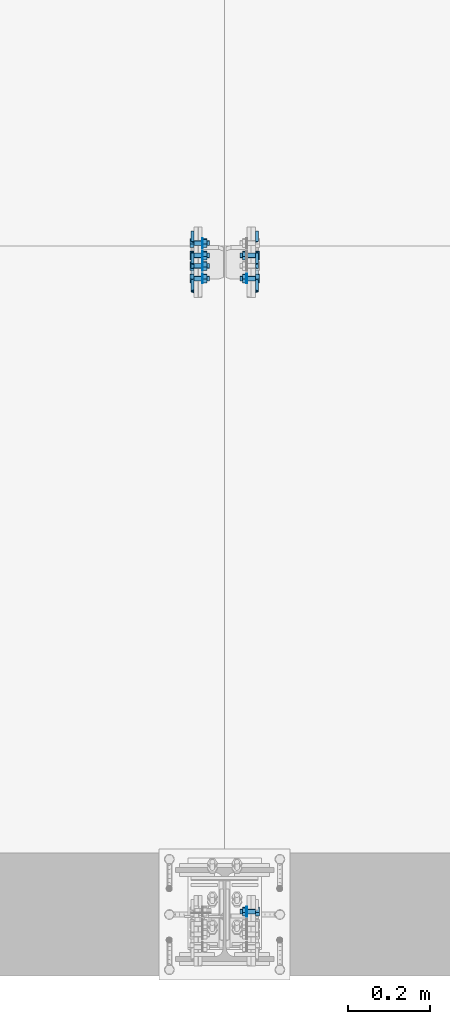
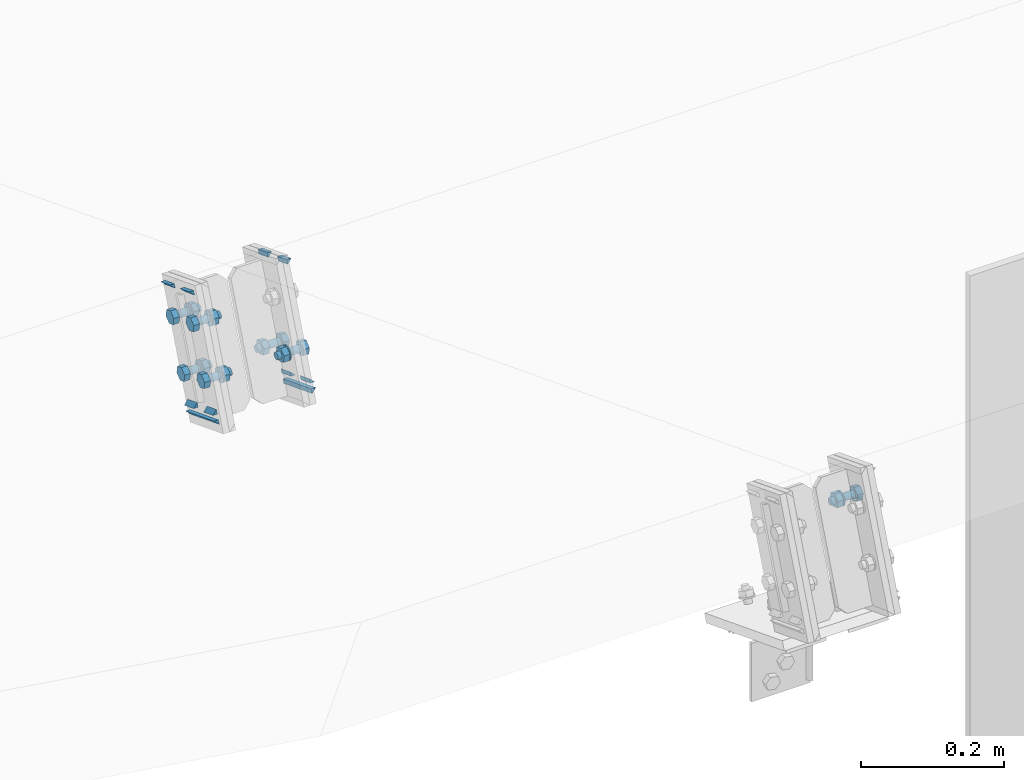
# One storey, part 28 of 72: 27 mechanical fasteners, 20 fasteners.
"""IFC4 building model written with IfcOpenShell, lengths in metres."""

from ifc_helpers import new_model, si_unit, frame, origin_with_axes, place, context, project, spatial, polyline, outline, extrude, type_object, element, save


model = new_model("IFC4")

# Units and contexts
model_context = context("Model", 3, precision=1e-05, world=origin_with_axes())
ifc_project = project(units=[si_unit("LENGTHUNIT", "METRE"), si_unit("AREAUNIT", "SQUARE_METRE"), si_unit("VOLUMEUNIT", "CUBIC_METRE"), si_unit("MASSUNIT", "GRAM", prefix="KILO"), si_unit("TIMEUNIT", "SECOND"), si_unit("PLANEANGLEUNIT", "RADIAN"), si_unit("SOLIDANGLEUNIT", "STERADIAN"), si_unit("THERMODYNAMICTEMPERATUREUNIT", "DEGREE_CELSIUS")], contexts=[model_context])

# Site, building, storey
placement_1 = place(None, origin_with_axes())
site = spatial("IfcSite", under=ifc_project, at=placement_1, Name="Italia", CompositionType="ELEMENT")
building = spatial("IfcBuilding", under=site, at=placement_1, Name="Uffici", CompositionType="ELEMENT")
storey = spatial("IfcBuildingStorey", under=building, at=placement_1, Name="Storey 0", CompositionType="ELEMENT", Elevation=0.0)

# Fasteners
fastener_type_1 = type_object("IfcFastenerType", Name="Collegamento -027_-026", PredefinedType="WELD")
placement_2 = place(placement_1, origin_with_axes())
fastener_1_placement = place(placement_2, origin_with_axes())
element("IfcFastener", 1, at=fastener_1_placement, inside=storey, type_object=fastener_type_1, Name="Collegamento -027_-026", context=model_context, shape_type="SweptSolid", body=[
    extrude(outline(polyline([(0.0, 0.0), (-0.00717354, 0.00695848), (0.0, 0.00695848), (0.0, 0.0)])), frame((3.13005, 1.6679, 6.57674), z_axis=(0.0, -0.932384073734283, 0.361469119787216), x_axis=(1.0, 0.0, 0.0)), (0.0, 0.0, 1.0), 0.0283),
])
fastener_type_2 = type_object("IfcFastenerType", Name="Collegamento -027_-026", PredefinedType="WELD")
fastener_2_placement = place(placement_2, origin_with_axes())
element("IfcFastener", 2, at=fastener_2_placement, inside=storey, type_object=fastener_type_2, Name="Collegamento -027_-026", context=model_context, shape_type="SweptSolid", body=[
    extrude(outline(polyline([(0.0, 0.0), (0.00717354, -0.00695848), (0.0, -0.00695848), (0.0, 0.0)])), frame((3.13005, 1.58036, 6.42922), z_axis=(0.0, 0.932390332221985, -0.361453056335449), x_axis=(-1.0, 0.0, 0.0)), (0.0, 0.0, 1.0), 0.0283),
])
fastener_type_3 = type_object("IfcFastenerType", Name="Collegamento -027_-026", PredefinedType="WELD")
fastener_3_placement = place(placement_2, origin_with_axes())
element("IfcFastener", 3, at=fastener_3_placement, inside=storey, type_object=fastener_type_3, Name="Collegamento -027_-026", context=model_context, shape_type="SweptSolid", body=[
    extrude(outline(polyline([(0.0, 0.0), (-0.00717354, 0.00695753), (0.0, 0.00695753), (0.0, 0.0)])), frame((3.13005, 1.59868, 6.39819), z_axis=(0.0, -0.932389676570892, 0.361454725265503), x_axis=(1.0, 0.0, 0.0)), (0.0, 0.0, 1.0), 0.0861),
])
fastener_type_4 = type_object("IfcFastenerType", Name="Collegamento -027_-026", PredefinedType="WELD")
fastener_4_placement = place(placement_2, origin_with_axes())
element("IfcFastener", 4, at=fastener_4_placement, inside=storey, type_object=fastener_type_4, Name="Collegamento -027_-026", context=model_context, shape_type="SweptSolid", body=[
    extrude(outline(polyline([(0.0, 0.0), (0.00717354, -0.00695848), (0.0, -0.00695848), (0.0, 0.0)])), frame((3.13005, 1.52647, 6.45012), z_axis=(0.0, 0.932391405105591, -0.3614501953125), x_axis=(-1.0, 0.0, 0.0)), (0.0, 0.0, 1.0), 0.0283002),
])
fastener_type_5 = type_object("IfcFastenerType", Name="Collegamento -027_-026", PredefinedType="WELD")
fastener_5_placement = place(placement_2, origin_with_axes())
element("IfcFastener", 5, at=fastener_5_placement, inside=storey, type_object=fastener_type_5, Name="Collegamento -027_-026", context=model_context, shape_type="SweptSolid", body=[
    extrude(outline(polyline([(0.0, 0.0), (-0.00717354, 0.00695753), (0.0, 0.00695753), (0.0, 0.0)])), frame((3.13005, 1.61401, 6.59763), z_axis=(0.0, -0.932389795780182, 0.361454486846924), x_axis=(1.0, 0.0, 0.0)), (0.0, 0.0, 1.0), 0.0282999),
])
fastener_type_6 = type_object("IfcFastenerType", Name="Collegamento -027_-026", PredefinedType="WELD")
fastener_6_placement = place(placement_2, origin_with_axes())
element("IfcFastener", 6, at=fastener_6_placement, inside=storey, type_object=fastener_type_6, Name="Collegamento -027_-026", context=model_context, shape_type="SweptSolid", body=[
    extrude(outline(polyline([(0.0, 0.0), (-0.00717354, 0.00695848), (0.0, 0.00695848), (0.0, 0.0)])), frame((3.13005, 1.6679, 6.57674), z_axis=(0.0, -0.932384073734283, 0.361469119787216), x_axis=(1.0, 0.0, 0.0)), (0.0, 0.0, 1.0), 0.0283),
])
fastener_type_7 = type_object("IfcFastenerType", Name="Collegamento -027_-026", PredefinedType="WELD")
fastener_7_placement = place(placement_2, origin_with_axes())
element("IfcFastener", 7, at=fastener_7_placement, inside=storey, type_object=fastener_type_7, Name="Collegamento -027_-026", context=model_context, shape_type="SweptSolid", body=[
    extrude(outline(polyline([(0.0, 0.0), (0.00717354, -0.00695848), (0.0, -0.00695848), (0.0, 0.0)])), frame((3.13005, 1.58036, 6.42922), z_axis=(0.0, 0.932390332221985, -0.361453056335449), x_axis=(-1.0, 0.0, 0.0)), (0.0, 0.0, 1.0), 0.0283),
])
fastener_type_8 = type_object("IfcFastenerType", Name="Collegamento -027_-026", PredefinedType="WELD")
fastener_8_placement = place(placement_2, origin_with_axes())
element("IfcFastener", 8, at=fastener_8_placement, inside=storey, type_object=fastener_type_8, Name="Collegamento -027_-026", context=model_context, shape_type="SweptSolid", body=[
    extrude(outline(polyline([(0.0, 0.0), (-0.00717354, 0.00695753), (0.0, 0.00695753), (0.0, 0.0)])), frame((3.13005, 1.59868, 6.39819), z_axis=(0.0, -0.932389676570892, 0.361454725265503), x_axis=(1.0, 0.0, 0.0)), (0.0, 0.0, 1.0), 0.0861),
])
fastener_type_9 = type_object("IfcFastenerType", Name="Collegamento -027_-026", PredefinedType="WELD")
fastener_9_placement = place(placement_2, origin_with_axes())
element("IfcFastener", 9, at=fastener_9_placement, inside=storey, type_object=fastener_type_9, Name="Collegamento -027_-026", context=model_context, shape_type="SweptSolid", body=[
    extrude(outline(polyline([(0.0, 0.0), (0.00717354, -0.00695848), (0.0, -0.00695848), (0.0, 0.0)])), frame((3.13005, 1.52647, 6.45012), z_axis=(0.0, 0.932391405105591, -0.3614501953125), x_axis=(-1.0, 0.0, 0.0)), (0.0, 0.0, 1.0), 0.0283002),
])
fastener_type_10 = type_object("IfcFastenerType", Name="Collegamento -027_-026", PredefinedType="WELD")
fastener_10_placement = place(placement_2, origin_with_axes())
element("IfcFastener", 10, at=fastener_10_placement, inside=storey, type_object=fastener_type_10, Name="Collegamento -027_-026", context=model_context, shape_type="SweptSolid", body=[
    extrude(outline(polyline([(0.0, 0.0), (-0.00717354, 0.00695753), (0.0, 0.00695753), (0.0, 0.0)])), frame((3.13005, 1.61401, 6.59763), z_axis=(0.0, -0.932389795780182, 0.361454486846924), x_axis=(1.0, 0.0, 0.0)), (0.0, 0.0, 1.0), 0.0282999),
])

# Mechanical fasteners
mechanical_fastener_type_1 = type_object("IfcMechanicalFastenerType", Name="Collegamento -027_-026", PredefinedType="BOLT")
mechanical_fastener_1_placement = place(placement_2, origin_with_axes())
element("IfcMechanicalFastener", 11, at=mechanical_fastener_1_placement, inside=storey, type_object=mechanical_fastener_type_1, Name="Collegamento -027_-026", NominalDiameter=0.0119998, context=model_context, shape_type="SweptSolid", body=[
    extrude(outline(polyline([(0.0, 0.0), (-0.0111887, -0.00433731), (-0.0205394, 0.00318336), (-0.0187016, 0.0150418), (-0.00751293, 0.0193796), (0.00183785, 0.0118585), (0.0, 0.0)])), frame((3.13, 1.60063, 6.4559), z_axis=(-1.0, 0.0, 0.0), x_axis=(0.0, -1.0, 0.0)), (0.0, 0.0, 1.0), 0.00959992),
])
mechanical_fastener_type_2 = type_object("IfcMechanicalFastenerType", Name="Collegamento -027_-026", PredefinedType="BOLT")
mechanical_fastener_2_placement = place(placement_2, origin_with_axes())
element("IfcMechanicalFastener", 12, at=mechanical_fastener_2_placement, inside=storey, type_object=mechanical_fastener_type_2, Name="Collegamento -027_-026", NominalDiameter=0.012, context=model_context, shape_type="SweptSolid", body=[
    extrude(outline(polyline([(0.0, 0.0), (-0.000204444, -0.00155306), (-0.000803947, -0.00299978), (-0.00175738, -0.00424242), (-0.00300002, -0.00519609), (-0.0044471, -0.00579548), (-0.00600004, -0.00600004), (-0.00755298, -0.00579548), (-0.00900006, -0.00519609), (-0.0102427, -0.00424242), (-0.0111961, -0.00299978), (-0.0117956, -0.00155306), (-0.0120001, 0.0), (-0.0117956, 0.00155306), (-0.0111961, 0.00299978), (-0.0102427, 0.00424242), (-0.00900006, 0.00519609), (-0.00755298, 0.00579548), (-0.00600004, 0.00600004), (-0.0044471, 0.00579548), (-0.00300002, 0.00519609), (-0.00175738, 0.00424242), (-0.000803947, 0.00299978), (-0.000204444, 0.00155306), (0.0, 0.0)])), frame((3.168, 1.60398, 6.46342), z_axis=(-1.0, 0.0, 0.0), x_axis=(0.0, -1.0, 0.0)), (0.0, 0.0, 1.0), 0.0379999),
])
mechanical_fastener_type_3 = type_object("IfcMechanicalFastenerType", Name="Collegamento -027_-026", PredefinedType="BOLT")
mechanical_fastener_3_placement = place(placement_2, origin_with_axes())
element("IfcMechanicalFastener", 13, at=mechanical_fastener_3_placement, inside=storey, type_object=mechanical_fastener_type_3, Name="Collegamento -027_-026", NominalDiameter=0.0119998, context=model_context, shape_type="SweptSolid", body=[
    extrude(outline(polyline([(0.0, 0.0), (-0.0111887, -0.00433731), (-0.0205394, 0.00318336), (-0.0187016, 0.0150418), (-0.00751293, 0.0193796), (0.00183785, 0.0118585), (0.0, 0.0)])), frame((3.1616, 1.60063, 6.4559), z_axis=(-1.0, 0.0, 0.0), x_axis=(0.0, -1.0, 0.0)), (0.0, 0.0, 1.0), 0.00959992),
])
mechanical_fastener_type_4 = type_object("IfcMechanicalFastenerType", Name="Collegamento -027_-026", PredefinedType="BOLT")
mechanical_fastener_4_placement = place(placement_2, origin_with_axes())
element("IfcMechanicalFastener", 14, at=mechanical_fastener_4_placement, inside=storey, type_object=mechanical_fastener_type_4, Name="Collegamento -027_-026", NominalDiameter=0.024, context=model_context, shape_type="SweptSolid", body=[
    extrude(outline(polyline([(0.0, 0.0), (-0.000408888, -0.00310564), (-0.00160766, -0.00600004), (-0.00351465, -0.00848532), (-0.00599992, -0.0103922), (-0.00889409, -0.011591), (-0.012, -0.0120001), (-0.0151058, -0.011591), (-0.018, -0.0103922), (-0.0204853, -0.00848532), (-0.0223923, -0.00600004), (-0.023591, -0.00310564), (-0.0239999, 0.0), (-0.023591, 0.00310564), (-0.0223923, 0.00600004), (-0.0204853, 0.00848532), (-0.018, 0.0103922), (-0.0151058, 0.011591), (-0.012, 0.0120001), (-0.00889409, 0.011591), (-0.00599992, 0.0103922), (-0.00351465, 0.00848532), (-0.00160766, 0.00600004), (-0.000408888, 0.00310564), (0.0, 0.0)])), frame((3.152, 1.59798, 6.46342), z_axis=(-1.0, 0.0, 0.0), x_axis=(0.0, -1.0, 0.0)), (0.0, 0.0, 1.0), 0.00200009),
])
mechanical_fastener_type_5 = type_object("IfcMechanicalFastenerType", Name="Collegamento -027_-026", PredefinedType="BOLT")
mechanical_fastener_5_placement = place(placement_2, origin_with_axes())
element("IfcMechanicalFastener", 15, at=mechanical_fastener_5_placement, inside=storey, type_object=mechanical_fastener_type_5, Name="Collegamento -027_-026", NominalDiameter=0.0119999, context=model_context, shape_type="SweptSolid", body=[
    extrude(outline(polyline([(0.0, 0.0), (-0.0111886, -0.00433779), (-0.0205393, 0.00318336), (-0.0187014, 0.0150418), (-0.00751281, 0.0193791), (0.00183797, 0.0118585), (0.0, 0.0)])), frame((3.13, 1.54468, 6.47759), z_axis=(-1.0, 0.0, 0.0), x_axis=(0.0, -1.0, 0.0)), (0.0, 0.0, 1.0), 0.00959992),
])
mechanical_fastener_type_6 = type_object("IfcMechanicalFastenerType", Name="Collegamento -027_-026", PredefinedType="BOLT")
mechanical_fastener_6_placement = place(placement_2, origin_with_axes())
element("IfcMechanicalFastener", 16, at=mechanical_fastener_6_placement, inside=storey, type_object=mechanical_fastener_type_6, Name="Collegamento -027_-026", NominalDiameter=0.012, context=model_context, shape_type="SweptSolid", body=[
    extrude(outline(polyline([(0.0, 0.0), (-0.000204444, -0.00155306), (-0.000803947, -0.00299978), (-0.00175738, -0.00424242), (-0.00300002, -0.00519609), (-0.0044471, -0.00579548), (-0.00600004, -0.00600004), (-0.00755298, -0.00579548), (-0.00900006, -0.00519609), (-0.0102427, -0.00424242), (-0.0111961, -0.00299978), (-0.0117956, -0.00155306), (-0.0120001, 0.0), (-0.0117956, 0.00155306), (-0.0111961, 0.00299978), (-0.0102427, 0.00424242), (-0.00900006, 0.00519609), (-0.00755298, 0.00579548), (-0.00600004, 0.00600004), (-0.0044471, 0.00579548), (-0.00300002, 0.00519609), (-0.00175738, 0.00424242), (-0.000803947, 0.00299978), (-0.000204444, 0.00155306), (0.0, 0.0)])), frame((3.168, 1.54803, 6.48511), z_axis=(-1.0, 0.0, 0.0), x_axis=(0.0, -1.0, 0.0)), (0.0, 0.0, 1.0), 0.0379999),
])
mechanical_fastener_type_7 = type_object("IfcMechanicalFastenerType", Name="Collegamento -027_-026", PredefinedType="BOLT")
mechanical_fastener_7_placement = place(placement_2, origin_with_axes())
element("IfcMechanicalFastener", 17, at=mechanical_fastener_7_placement, inside=storey, type_object=mechanical_fastener_type_7, Name="Collegamento -027_-026", NominalDiameter=0.0119999, context=model_context, shape_type="SweptSolid", body=[
    extrude(outline(polyline([(0.0, 0.0), (-0.0111886, -0.00433779), (-0.0205393, 0.00318336), (-0.0187014, 0.0150418), (-0.00751281, 0.0193791), (0.00183797, 0.0118585), (0.0, 0.0)])), frame((3.1616, 1.54468, 6.47759), z_axis=(-1.0, 0.0, 0.0), x_axis=(0.0, -1.0, 0.0)), (0.0, 0.0, 1.0), 0.00959992),
])
mechanical_fastener_type_8 = type_object("IfcMechanicalFastenerType", Name="Collegamento -027_-026", PredefinedType="BOLT")
mechanical_fastener_8_placement = place(placement_2, origin_with_axes())
element("IfcMechanicalFastener", 18, at=mechanical_fastener_8_placement, inside=storey, type_object=mechanical_fastener_type_8, Name="Collegamento -027_-026", NominalDiameter=0.024, context=model_context, shape_type="SweptSolid", body=[
    extrude(outline(polyline([(0.0, 0.0), (-0.000408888, -0.00310564), (-0.00160766, -0.00600004), (-0.00351465, -0.00848532), (-0.00599992, -0.0103922), (-0.00889409, -0.011591), (-0.012, -0.0120001), (-0.0151058, -0.011591), (-0.018, -0.0103922), (-0.0204853, -0.00848532), (-0.0223923, -0.00600004), (-0.023591, -0.00310564), (-0.0239999, 0.0), (-0.023591, 0.00310564), (-0.0223923, 0.00600004), (-0.0204853, 0.00848532), (-0.018, 0.0103922), (-0.0151058, 0.011591), (-0.012, 0.0120001), (-0.00889409, 0.011591), (-0.00599992, 0.0103922), (-0.00351465, 0.00848532), (-0.00160766, 0.00600004), (-0.000408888, 0.00310564), (0.0, 0.0)])), frame((3.152, 1.54203, 6.48511), z_axis=(-1.0, 0.0, 0.0), x_axis=(0.0, -1.0, 0.0)), (0.0, 0.0, 1.0), 0.00200009),
])
mechanical_fastener_type_9 = type_object("IfcMechanicalFastenerType", Name="Collegamento -027_-026", PredefinedType="BOLT")
mechanical_fastener_9_placement = place(placement_2, origin_with_axes())
element("IfcMechanicalFastener", 19, at=mechanical_fastener_9_placement, inside=storey, type_object=mechanical_fastener_type_9, Name="Collegamento -027_-026", NominalDiameter=0.0119999, context=model_context, shape_type="SweptSolid", body=[
    extrude(outline(polyline([(0.0, 0.0), (-0.0111886, -0.00433731), (-0.0205394, 0.00318336), (-0.0187014, 0.0150418), (-0.00751281, 0.0193796), (0.00183785, 0.0118585), (0.0, 0.0)])), frame((3.13, 1.63099, 6.53422), z_axis=(-1.0, 0.0, 0.0), x_axis=(0.0, -1.0, 0.0)), (0.0, 0.0, 1.0), 0.00959992),
])
mechanical_fastener_type_10 = type_object("IfcMechanicalFastenerType", Name="Collegamento -027_-026", PredefinedType="BOLT")
mechanical_fastener_10_placement = place(placement_2, origin_with_axes())
element("IfcMechanicalFastener", 20, at=mechanical_fastener_10_placement, inside=storey, type_object=mechanical_fastener_type_10, Name="Collegamento -027_-026", NominalDiameter=0.012, context=model_context, shape_type="SweptSolid", body=[
    extrude(outline(polyline([(0.0, 0.0), (-0.000204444, -0.00155306), (-0.000803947, -0.00299978), (-0.00175738, -0.00424242), (-0.00300002, -0.00519609), (-0.0044471, -0.00579548), (-0.00600004, -0.00600004), (-0.00755298, -0.00579548), (-0.00900006, -0.00519609), (-0.0102427, -0.00424242), (-0.0111961, -0.00299978), (-0.0117956, -0.00155306), (-0.0120001, 0.0), (-0.0117956, 0.00155306), (-0.0111961, 0.00299978), (-0.0102427, 0.00424242), (-0.00900006, 0.00519609), (-0.00755298, 0.00579548), (-0.00600004, 0.00600004), (-0.0044471, 0.00579548), (-0.00300002, 0.00519609), (-0.00175738, 0.00424242), (-0.000803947, 0.00299978), (-0.000204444, 0.00155306), (0.0, 0.0)])), frame((3.168, 1.63434, 6.54174), z_axis=(-1.0, 0.0, 0.0), x_axis=(0.0, -1.0, 0.0)), (0.0, 0.0, 1.0), 0.0379999),
])
mechanical_fastener_type_11 = type_object("IfcMechanicalFastenerType", Name="Collegamento -027_-026", PredefinedType="BOLT")
mechanical_fastener_11_placement = place(placement_2, origin_with_axes())
element("IfcMechanicalFastener", 21, at=mechanical_fastener_11_placement, inside=storey, type_object=mechanical_fastener_type_11, Name="Collegamento -027_-026", NominalDiameter=0.0119999, context=model_context, shape_type="SweptSolid", body=[
    extrude(outline(polyline([(0.0, 0.0), (-0.0111886, -0.00433731), (-0.0205394, 0.00318336), (-0.0187014, 0.0150418), (-0.00751281, 0.0193796), (0.00183785, 0.0118585), (0.0, 0.0)])), frame((3.1616, 1.63099, 6.53422), z_axis=(-1.0, 0.0, 0.0), x_axis=(0.0, -1.0, 0.0)), (0.0, 0.0, 1.0), 0.00959992),
])
mechanical_fastener_type_12 = type_object("IfcMechanicalFastenerType", Name="Collegamento -027_-026", PredefinedType="BOLT")
mechanical_fastener_12_placement = place(placement_2, origin_with_axes())
element("IfcMechanicalFastener", 22, at=mechanical_fastener_12_placement, inside=storey, type_object=mechanical_fastener_type_12, Name="Collegamento -027_-026", NominalDiameter=0.024, context=model_context, shape_type="SweptSolid", body=[
    extrude(outline(polyline([(0.0, 0.0), (-0.000408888, -0.00310564), (-0.00160766, -0.00600004), (-0.00351465, -0.00848532), (-0.00599992, -0.0103922), (-0.00889409, -0.011591), (-0.012, -0.0120001), (-0.0151058, -0.011591), (-0.018, -0.0103922), (-0.0204853, -0.00848532), (-0.0223923, -0.00600004), (-0.023591, -0.00310564), (-0.0239999, 0.0), (-0.023591, 0.00310564), (-0.0223923, 0.00600004), (-0.0204853, 0.00848532), (-0.018, 0.0103922), (-0.0151058, 0.011591), (-0.012, 0.0120001), (-0.00889409, 0.011591), (-0.00599992, 0.0103922), (-0.00351465, 0.00848532), (-0.00160766, 0.00600004), (-0.000408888, 0.00310564), (0.0, 0.0)])), frame((3.152, 1.62834, 6.54174), z_axis=(-1.0, 0.0, 0.0), x_axis=(0.0, -1.0, 0.0)), (0.0, 0.0, 1.0), 0.00200009),
])
mechanical_fastener_type_13 = type_object("IfcMechanicalFastenerType", Name="Collegamento -027_-026", PredefinedType="BOLT")
mechanical_fastener_13_placement = place(placement_2, origin_with_axes())
element("IfcMechanicalFastener", 23, at=mechanical_fastener_13_placement, inside=storey, type_object=mechanical_fastener_type_13, Name="Collegamento -027_-026", NominalDiameter=0.0119998, context=model_context, shape_type="SweptSolid", body=[
    extrude(outline(polyline([(0.0, 0.0), (-0.0111886, -0.00433779), (-0.0205394, 0.00318336), (-0.0187016, 0.0150418), (-0.00751281, 0.0193791), (0.00183785, 0.0118585), (0.0, 0.0)])), frame((3.13, 1.57505, 6.55591), z_axis=(-1.0, 0.0, 0.0), x_axis=(0.0, -1.0, 0.0)), (0.0, 0.0, 1.0), 0.00959992),
])
mechanical_fastener_type_14 = type_object("IfcMechanicalFastenerType", Name="Collegamento -027_-026", PredefinedType="BOLT")
mechanical_fastener_14_placement = place(placement_2, origin_with_axes())
element("IfcMechanicalFastener", 24, at=mechanical_fastener_14_placement, inside=storey, type_object=mechanical_fastener_type_14, Name="Collegamento -027_-026", NominalDiameter=0.012, context=model_context, shape_type="SweptSolid", body=[
    extrude(outline(polyline([(0.0, 0.0), (-0.000204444, -0.00155306), (-0.000803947, -0.00299978), (-0.00175738, -0.00424242), (-0.00300002, -0.00519609), (-0.0044471, -0.00579548), (-0.00600004, -0.00600004), (-0.00755298, -0.00579548), (-0.00900006, -0.00519609), (-0.0102427, -0.00424242), (-0.0111961, -0.00299978), (-0.0117956, -0.00155306), (-0.0120001, 0.0), (-0.0117956, 0.00155306), (-0.0111961, 0.00299978), (-0.0102427, 0.00424242), (-0.00900006, 0.00519609), (-0.00755298, 0.00579548), (-0.00600004, 0.00600004), (-0.0044471, 0.00579548), (-0.00300002, 0.00519609), (-0.00175738, 0.00424242), (-0.000803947, 0.00299978), (-0.000204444, 0.00155306), (0.0, 0.0)])), frame((3.168, 1.5784, 6.56343), z_axis=(-1.0, 0.0, 0.0), x_axis=(0.0, -1.0, 0.0)), (0.0, 0.0, 1.0), 0.0379999),
])
mechanical_fastener_type_15 = type_object("IfcMechanicalFastenerType", Name="Collegamento -027_-026", PredefinedType="BOLT")
mechanical_fastener_15_placement = place(placement_2, origin_with_axes())
element("IfcMechanicalFastener", 25, at=mechanical_fastener_15_placement, inside=storey, type_object=mechanical_fastener_type_15, Name="Collegamento -027_-026", NominalDiameter=0.0119998, context=model_context, shape_type="SweptSolid", body=[
    extrude(outline(polyline([(0.0, 0.0), (-0.0111886, -0.00433779), (-0.0205394, 0.00318336), (-0.0187016, 0.0150418), (-0.00751281, 0.0193791), (0.00183785, 0.0118585), (0.0, 0.0)])), frame((3.1616, 1.57505, 6.55591), z_axis=(-1.0, 0.0, 0.0), x_axis=(0.0, -1.0, 0.0)), (0.0, 0.0, 1.0), 0.00959992),
])
mechanical_fastener_type_16 = type_object("IfcMechanicalFastenerType", Name="Collegamento -027_-026", PredefinedType="BOLT")
mechanical_fastener_16_placement = place(placement_2, origin_with_axes())
element("IfcMechanicalFastener", 26, at=mechanical_fastener_16_placement, inside=storey, type_object=mechanical_fastener_type_16, Name="Collegamento -027_-026", NominalDiameter=0.024, context=model_context, shape_type="SweptSolid", body=[
    extrude(outline(polyline([(0.0, 0.0), (-0.000408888, -0.00310564), (-0.00160766, -0.00600004), (-0.00351465, -0.00848532), (-0.00599992, -0.0103922), (-0.00889409, -0.011591), (-0.012, -0.0120001), (-0.0151058, -0.011591), (-0.018, -0.0103922), (-0.0204853, -0.00848532), (-0.0223923, -0.00600004), (-0.023591, -0.00310564), (-0.0239999, 0.0), (-0.023591, 0.00310564), (-0.0223923, 0.00600004), (-0.0204853, 0.00848532), (-0.018, 0.0103922), (-0.0151058, 0.011591), (-0.012, 0.0120001), (-0.00889409, 0.011591), (-0.00599992, 0.0103922), (-0.00351465, 0.00848532), (-0.00160766, 0.00600004), (-0.000408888, 0.00310564), (0.0, 0.0)])), frame((3.152, 1.5724, 6.56343), z_axis=(-1.0, 0.0, 0.0), x_axis=(0.0, -1.0, 0.0)), (0.0, 0.0, 1.0), 0.00200009),
])

# Fasteners
fastener_type_11 = type_object("IfcFastenerType", Name="Collegamento -027_-028", PredefinedType="WELD")
fastener_11_placement = place(placement_2, origin_with_axes())
element("IfcFastener", 27, at=fastener_11_placement, inside=storey, type_object=fastener_type_11, Name="Collegamento -027_-028", context=model_context, shape_type="SweptSolid", body=[
    extrude(outline(polyline([(0.0, 0.0), (-0.00717354, 0.00695801), (0.0, 0.00695801), (0.0, 0.0)])), frame((3.27995, 1.64152, 6.58697), z_axis=(0.0, 0.932384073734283, -0.361469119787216), x_axis=(-1.0, 0.0, 0.0)), (0.0, 0.0, 1.0), 0.0283),
])
fastener_type_12 = type_object("IfcFastenerType", Name="Collegamento -027_-028", PredefinedType="WELD")
fastener_12_placement = place(placement_2, origin_with_axes())
element("IfcFastener", 28, at=fastener_12_placement, inside=storey, type_object=fastener_type_12, Name="Collegamento -027_-028", context=model_context, shape_type="SweptSolid", body=[
    extrude(outline(polyline([(0.0, 0.0), (0.00717354, -0.00695848), (0.0, -0.00695848), (0.0, 0.0)])), frame((3.27995, 1.60675, 6.41899), z_axis=(0.0, -0.932390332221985, 0.361453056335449), x_axis=(1.0, 0.0, 0.0)), (0.0, 0.0, 1.0), 0.0283),
])
fastener_type_13 = type_object("IfcFastenerType", Name="Collegamento -027_-028", PredefinedType="WELD")
fastener_13_placement = place(placement_2, origin_with_axes())
element("IfcFastener", 29, at=fastener_13_placement, inside=storey, type_object=fastener_type_13, Name="Collegamento -027_-028", context=model_context, shape_type="SweptSolid", body=[
    extrude(outline(polyline([(0.0, 0.0), (-0.00717354, 0.00695848), (0.0, 0.00695848), (0.0, 0.0)])), frame((3.27995, 1.5184, 6.42931), z_axis=(0.0, 0.932389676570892, -0.361454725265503), x_axis=(-1.0, 0.0, 0.0)), (0.0, 0.0, 1.0), 0.0861),
])
fastener_type_14 = type_object("IfcFastenerType", Name="Collegamento -027_-028", PredefinedType="WELD")
fastener_14_placement = place(placement_2, origin_with_axes())
element("IfcFastener", 30, at=fastener_14_placement, inside=storey, type_object=fastener_type_14, Name="Collegamento -027_-028", context=model_context, shape_type="SweptSolid", body=[
    extrude(outline(polyline([(0.0, 0.0), (0.00717354, -0.00695801), (0.0, -0.00695801), (0.0, 0.0)])), frame((3.27995, 1.55286, 6.43989), z_axis=(0.0, -0.932391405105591, 0.3614501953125), x_axis=(1.0, 0.0, 0.0)), (0.0, 0.0, 1.0), 0.0283002),
])
fastener_type_15 = type_object("IfcFastenerType", Name="Collegamento -027_-028", PredefinedType="WELD")
fastener_15_placement = place(placement_2, origin_with_axes())
element("IfcFastener", 31, at=fastener_15_placement, inside=storey, type_object=fastener_type_15, Name="Collegamento -027_-028", context=model_context, shape_type="SweptSolid", body=[
    extrude(outline(polyline([(0.0, 0.0), (-0.00717354, 0.00695801), (0.0, 0.00695801), (0.0, 0.0)])), frame((3.27995, 1.58762, 6.60786), z_axis=(0.0, 0.932389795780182, -0.361454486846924), x_axis=(-1.0, 0.0, 0.0)), (0.0, 0.0, 1.0), 0.0282999),
])
fastener_type_16 = type_object("IfcFastenerType", Name="Collegamento -027_-028", PredefinedType="WELD")
fastener_16_placement = place(placement_2, origin_with_axes())
element("IfcFastener", 32, at=fastener_16_placement, inside=storey, type_object=fastener_type_16, Name="Collegamento -027_-028", context=model_context, shape_type="SweptSolid", body=[
    extrude(outline(polyline([(0.0, 0.0), (-0.00717354, 0.00695801), (0.0, 0.00695801), (0.0, 0.0)])), frame((3.27995, 1.64152, 6.58697), z_axis=(0.0, 0.932384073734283, -0.361469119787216), x_axis=(-1.0, 0.0, 0.0)), (0.0, 0.0, 1.0), 0.0283),
])
fastener_type_17 = type_object("IfcFastenerType", Name="Collegamento -027_-028", PredefinedType="WELD")
fastener_17_placement = place(placement_2, origin_with_axes())
element("IfcFastener", 33, at=fastener_17_placement, inside=storey, type_object=fastener_type_17, Name="Collegamento -027_-028", context=model_context, shape_type="SweptSolid", body=[
    extrude(outline(polyline([(0.0, 0.0), (0.00717354, -0.00695848), (0.0, -0.00695848), (0.0, 0.0)])), frame((3.27995, 1.60675, 6.41899), z_axis=(0.0, -0.932390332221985, 0.361453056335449), x_axis=(1.0, 0.0, 0.0)), (0.0, 0.0, 1.0), 0.0283),
])
fastener_type_18 = type_object("IfcFastenerType", Name="Collegamento -027_-028", PredefinedType="WELD")
fastener_18_placement = place(placement_2, origin_with_axes())
element("IfcFastener", 34, at=fastener_18_placement, inside=storey, type_object=fastener_type_18, Name="Collegamento -027_-028", context=model_context, shape_type="SweptSolid", body=[
    extrude(outline(polyline([(0.0, 0.0), (-0.00717354, 0.00695848), (0.0, 0.00695848), (0.0, 0.0)])), frame((3.27995, 1.5184, 6.42931), z_axis=(0.0, 0.932389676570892, -0.361454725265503), x_axis=(-1.0, 0.0, 0.0)), (0.0, 0.0, 1.0), 0.0861),
])
fastener_type_19 = type_object("IfcFastenerType", Name="Collegamento -027_-028", PredefinedType="WELD")
fastener_19_placement = place(placement_2, origin_with_axes())
element("IfcFastener", 35, at=fastener_19_placement, inside=storey, type_object=fastener_type_19, Name="Collegamento -027_-028", context=model_context, shape_type="SweptSolid", body=[
    extrude(outline(polyline([(0.0, 0.0), (0.00717354, -0.00695801), (0.0, -0.00695801), (0.0, 0.0)])), frame((3.27995, 1.55286, 6.43989), z_axis=(0.0, -0.932391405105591, 0.3614501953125), x_axis=(1.0, 0.0, 0.0)), (0.0, 0.0, 1.0), 0.0283002),
])
fastener_type_20 = type_object("IfcFastenerType", Name="Collegamento -027_-028", PredefinedType="WELD")
fastener_20_placement = place(placement_2, origin_with_axes())
element("IfcFastener", 36, at=fastener_20_placement, inside=storey, type_object=fastener_type_20, Name="Collegamento -027_-028", context=model_context, shape_type="SweptSolid", body=[
    extrude(outline(polyline([(0.0, 0.0), (-0.00717354, 0.00695801), (0.0, 0.00695801), (0.0, 0.0)])), frame((3.27995, 1.58762, 6.60786), z_axis=(0.0, 0.932389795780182, -0.361454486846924), x_axis=(-1.0, 0.0, 0.0)), (0.0, 0.0, 1.0), 0.0282999),
])

# Mechanical fasteners
mechanical_fastener_type_17 = type_object("IfcMechanicalFastenerType", Name="Collegamento -027_-028", PredefinedType="BOLT")
mechanical_fastener_17_placement = place(placement_2, origin_with_axes())
element("IfcMechanicalFastener", 37, at=mechanical_fastener_17_placement, inside=storey, type_object=mechanical_fastener_type_17, Name="Collegamento -027_-028", NominalDiameter=0.0119999, context=model_context, shape_type="SweptSolid", body=[
    extrude(outline(polyline([(0.0, 0.0), (-0.0111886, 0.00433779), (-0.0130266, 0.0161963), (-0.00367582, 0.0237169), (0.00751281, 0.0193796), (0.00935066, 0.00752115), (0.0, 0.0)])), frame((3.28, 1.55587, 6.47325), z_axis=(1.0, 0.0, 0.0), x_axis=(0.0, 1.0, 0.0)), (0.0, 0.0, 1.0), 0.00959992),
])
mechanical_fastener_type_18 = type_object("IfcMechanicalFastenerType", Name="Collegamento -027_-028", PredefinedType="BOLT")
mechanical_fastener_18_placement = place(placement_2, origin_with_axes())
element("IfcMechanicalFastener", 38, at=mechanical_fastener_18_placement, inside=storey, type_object=mechanical_fastener_type_18, Name="Collegamento -027_-028", NominalDiameter=0.012, context=model_context, shape_type="SweptSolid", body=[
    extrude(outline(polyline([(0.0, 0.0), (-0.000204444, -0.00155306), (-0.000803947, -0.00299978), (-0.00175738, -0.00424242), (-0.00300002, -0.00519609), (-0.0044471, -0.00579548), (-0.00600004, -0.00600004), (-0.00755298, -0.00579548), (-0.00900006, -0.00519609), (-0.0102427, -0.00424242), (-0.0111961, -0.00299978), (-0.0117956, -0.00155306), (-0.0120001, 0.0), (-0.0117956, 0.00155306), (-0.0111961, 0.00299978), (-0.0102427, 0.00424242), (-0.00900006, 0.00519609), (-0.00755298, 0.00579548), (-0.00600004, 0.00600004), (-0.0044471, 0.00579548), (-0.00300002, 0.00519609), (-0.00175738, 0.00424242), (-0.000803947, 0.00299978), (-0.000204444, 0.00155306), (0.0, 0.0)])), frame((3.242, 1.56003, 6.48511), z_axis=(1.0, 0.0, 0.0), x_axis=(0.0, 1.0, 0.0)), (0.0, 0.0, 1.0), 0.0379999),
])
mechanical_fastener_type_19 = type_object("IfcMechanicalFastenerType", Name="Collegamento -027_-028", PredefinedType="BOLT")
mechanical_fastener_19_placement = place(placement_2, origin_with_axes())
element("IfcMechanicalFastener", 39, at=mechanical_fastener_19_placement, inside=storey, type_object=mechanical_fastener_type_19, Name="Collegamento -027_-028", NominalDiameter=0.0119999, context=model_context, shape_type="SweptSolid", body=[
    extrude(outline(polyline([(0.0, 0.0), (-0.0111886, 0.00433779), (-0.0130266, 0.0161963), (-0.00367582, 0.0237169), (0.00751281, 0.0193796), (0.00935066, 0.00752115), (0.0, 0.0)])), frame((3.2484, 1.55587, 6.47325), z_axis=(1.0, 0.0, 0.0), x_axis=(0.0, 1.0, 0.0)), (0.0, 0.0, 1.0), 0.00959992),
])
mechanical_fastener_type_20 = type_object("IfcMechanicalFastenerType", Name="Collegamento -027_-028", PredefinedType="BOLT")
mechanical_fastener_20_placement = place(placement_2, origin_with_axes())
element("IfcMechanicalFastener", 40, at=mechanical_fastener_20_placement, inside=storey, type_object=mechanical_fastener_type_20, Name="Collegamento -027_-028", NominalDiameter=0.024, context=model_context, shape_type="SweptSolid", body=[
    extrude(outline(polyline([(0.0, 0.0), (-0.000408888, -0.00310564), (-0.00160766, -0.00600004), (-0.00351465, -0.00848532), (-0.00599992, -0.0103922), (-0.00889409, -0.011591), (-0.012, -0.0120001), (-0.0151058, -0.011591), (-0.018, -0.0103922), (-0.0204853, -0.00848532), (-0.0223923, -0.00600004), (-0.023591, -0.00310564), (-0.0239999, 0.0), (-0.023591, 0.00310564), (-0.0223923, 0.00600004), (-0.0204853, 0.00848532), (-0.018, 0.0103922), (-0.0151058, 0.011591), (-0.012, 0.0120001), (-0.00889409, 0.011591), (-0.00599992, 0.0103922), (-0.00351465, 0.00848532), (-0.00160766, 0.00600004), (-0.000408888, 0.00310564), (0.0, 0.0)])), frame((3.258, 1.56603, 6.48511), z_axis=(1.0, 0.0, 0.0), x_axis=(0.0, 1.0, 0.0)), (0.0, 0.0, 1.0), 0.00200009),
])
mechanical_fastener_type_21 = type_object("IfcMechanicalFastenerType", Name="Collegamento -027_-028", PredefinedType="BOLT")
mechanical_fastener_21_placement = place(placement_2, origin_with_axes())
element("IfcMechanicalFastener", 41, at=mechanical_fastener_21_placement, inside=storey, type_object=mechanical_fastener_type_21, Name="Collegamento -027_-028", NominalDiameter=0.0119998, context=model_context, shape_type="SweptSolid", body=[
    extrude(outline(polyline([(0.0, 0.0), (-0.0111887, 0.00433731), (-0.0130266, 0.0161958), (-0.00367582, 0.0237169), (0.00751281, 0.0193791), (0.00935066, 0.00752068), (0.0, 0.0)])), frame((3.28, 1.61182, 6.45157), z_axis=(1.0, 0.0, 0.0), x_axis=(0.0, 1.0, 0.0)), (0.0, 0.0, 1.0), 0.00959992),
])
mechanical_fastener_type_22 = type_object("IfcMechanicalFastenerType", Name="Collegamento -027_-028", PredefinedType="BOLT")
mechanical_fastener_22_placement = place(placement_2, origin_with_axes())
element("IfcMechanicalFastener", 42, at=mechanical_fastener_22_placement, inside=storey, type_object=mechanical_fastener_type_22, Name="Collegamento -027_-028", NominalDiameter=0.012, context=model_context, shape_type="SweptSolid", body=[
    extrude(outline(polyline([(0.0, 0.0), (-0.000204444, -0.00155306), (-0.000803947, -0.00299978), (-0.00175738, -0.00424242), (-0.00300002, -0.00519609), (-0.0044471, -0.00579548), (-0.00600004, -0.00600004), (-0.00755298, -0.00579548), (-0.00900006, -0.00519609), (-0.0102427, -0.00424242), (-0.0111961, -0.00299978), (-0.0117956, -0.00155306), (-0.0120001, 0.0), (-0.0117956, 0.00155306), (-0.0111961, 0.00299978), (-0.0102427, 0.00424242), (-0.00900006, 0.00519609), (-0.00755298, 0.00579548), (-0.00600004, 0.00600004), (-0.0044471, 0.00579548), (-0.00300002, 0.00519609), (-0.00175738, 0.00424242), (-0.000803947, 0.00299978), (-0.000204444, 0.00155306), (0.0, 0.0)])), frame((3.242, 1.61598, 6.46342), z_axis=(1.0, 0.0, 0.0), x_axis=(0.0, 1.0, 0.0)), (0.0, 0.0, 1.0), 0.0379999),
])
mechanical_fastener_type_23 = type_object("IfcMechanicalFastenerType", Name="Collegamento -027_-028", PredefinedType="BOLT")
mechanical_fastener_23_placement = place(placement_2, origin_with_axes())
element("IfcMechanicalFastener", 43, at=mechanical_fastener_23_placement, inside=storey, type_object=mechanical_fastener_type_23, Name="Collegamento -027_-028", NominalDiameter=0.0119998, context=model_context, shape_type="SweptSolid", body=[
    extrude(outline(polyline([(0.0, 0.0), (-0.0111887, 0.00433731), (-0.0130266, 0.0161958), (-0.00367582, 0.0237169), (0.00751281, 0.0193791), (0.00935066, 0.00752068), (0.0, 0.0)])), frame((3.2484, 1.61182, 6.45157), z_axis=(1.0, 0.0, 0.0), x_axis=(0.0, 1.0, 0.0)), (0.0, 0.0, 1.0), 0.00959992),
])
mechanical_fastener_type_24 = type_object("IfcMechanicalFastenerType", Name="Collegamento 0202_0203", PredefinedType="BOLT")
mechanical_fastener_24_placement = place(placement_2, origin_with_axes())
element("IfcMechanicalFastener", 44, at=mechanical_fastener_24_placement, inside=storey, type_object=mechanical_fastener_type_24, Name="Collegamento 0202_0203", NominalDiameter=0.0119999, context=model_context, shape_type="SweptSolid", body=[
    extrude(outline(polyline([(0.0, 0.0), (-0.0111886, 0.00433731), (-0.0130265, 0.0161958), (-0.0036758, 0.0237169), (0.00751284, 0.0193791), (0.00935074, 0.00752068), (0.0, 0.0)])), frame((3.28, 0.00884473, 7.16322), z_axis=(1.0, 0.0, 0.0), x_axis=(0.0, 1.0, 0.0)), (0.0, 0.0, 1.0), 0.00959992),
])
mechanical_fastener_type_25 = type_object("IfcMechanicalFastenerType", Name="Collegamento 0202_0203", PredefinedType="BOLT")
mechanical_fastener_25_placement = place(placement_2, origin_with_axes())
element("IfcMechanicalFastener", 45, at=mechanical_fastener_25_placement, inside=storey, type_object=mechanical_fastener_type_25, Name="Collegamento 0202_0203", NominalDiameter=0.012, context=model_context, shape_type="SweptSolid", body=[
    extrude(outline(polyline([(0.0, 0.0), (-0.000204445, -0.00155306), (-0.000803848, -0.00299978), (-0.00175736, -0.00424242), (-0.003, -0.00519609), (-0.00444709, -0.00579548), (-0.006, -0.00600004), (-0.00755292, -0.00579548), (-0.009, -0.00519609), (-0.0102426, -0.00424242), (-0.0111962, -0.00299978), (-0.0117956, -0.00155306), (-0.012, 0.0), (-0.0117956, 0.00155306), (-0.0111962, 0.00299978), (-0.0102426, 0.00424242), (-0.009, 0.00519609), (-0.00755291, 0.00579548), (-0.006, 0.00600004), (-0.00444709, 0.00579548), (-0.003, 0.00519609), (-0.00175736, 0.00424242), (-0.000803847, 0.00299978), (-0.000204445, 0.00155306), (0.0, 0.0)])), frame((3.242, 0.0130068, 7.17508), z_axis=(1.0, 0.0, 0.0), x_axis=(0.0, 1.0, 0.0)), (0.0, 0.0, 1.0), 0.0379999),
])
mechanical_fastener_type_26 = type_object("IfcMechanicalFastenerType", Name="Collegamento 0202_0203", PredefinedType="BOLT")
mechanical_fastener_26_placement = place(placement_2, origin_with_axes())
element("IfcMechanicalFastener", 46, at=mechanical_fastener_26_placement, inside=storey, type_object=mechanical_fastener_type_26, Name="Collegamento 0202_0203", NominalDiameter=0.0119999, context=model_context, shape_type="SweptSolid", body=[
    extrude(outline(polyline([(0.0, 0.0), (-0.0111886, 0.00433731), (-0.0130265, 0.0161958), (-0.0036758, 0.0237169), (0.00751284, 0.0193791), (0.00935074, 0.00752068), (0.0, 0.0)])), frame((3.2484, 0.00884473, 7.16322), z_axis=(1.0, 0.0, 0.0), x_axis=(0.0, 1.0, 0.0)), (0.0, 0.0, 1.0), 0.00959992),
])
mechanical_fastener_type_27 = type_object("IfcMechanicalFastenerType", Name="Collegamento 0202_0203", PredefinedType="BOLT")
mechanical_fastener_27_placement = place(placement_2, origin_with_axes())
element("IfcMechanicalFastener", 47, at=mechanical_fastener_27_placement, inside=storey, type_object=mechanical_fastener_type_27, Name="Collegamento 0202_0203", NominalDiameter=0.024, context=model_context, shape_type="SweptSolid", body=[
    extrude(outline(polyline([(0.0, 0.0), (-0.00040889, -0.00310564), (-0.0016077, -0.00600004), (-0.00351472, -0.00848532), (-0.006, -0.0103922), (-0.00889417, -0.011591), (-0.012, -0.0120001), (-0.0151058, -0.011591), (-0.018, -0.0103922), (-0.0204853, -0.00848532), (-0.0223923, -0.00600004), (-0.0235911, -0.00310564), (-0.024, 0.0), (-0.0235911, 0.00310564), (-0.0223923, 0.00600004), (-0.0204853, 0.00848532), (-0.018, 0.0103922), (-0.0151058, 0.011591), (-0.012, 0.0120001), (-0.00889417, 0.011591), (-0.006, 0.0103922), (-0.00351472, 0.00848532), (-0.00160769, 0.00600004), (-0.00040889, 0.00310564), (0.0, 0.0)])), frame((3.258, 0.0190068, 7.17508), z_axis=(1.0, 0.0, 0.0), x_axis=(0.0, 1.0, 0.0)), (0.0, 0.0, 1.0), 0.00200009),
])

save(model, "model.ifc")
